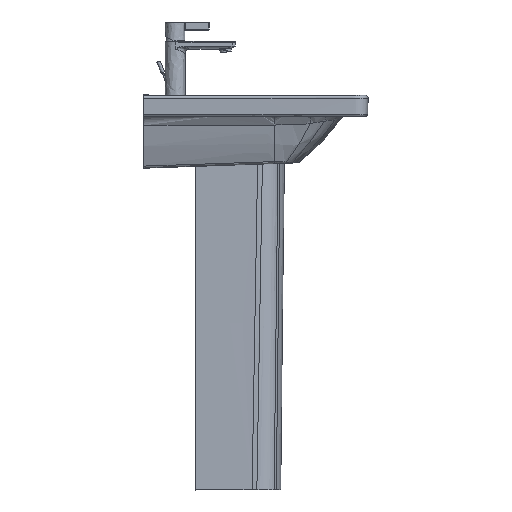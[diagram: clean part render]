
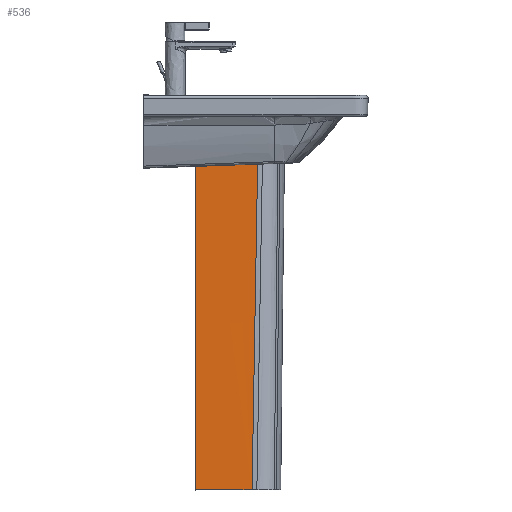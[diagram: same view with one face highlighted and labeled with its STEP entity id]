
A CAD part, left-side view. The second image highlights one B-rep face of the part: STEP entity #536.
In plain terms, the highlighted free-form (B-spline) face has degree [5, 5] with [9, 6] control points.
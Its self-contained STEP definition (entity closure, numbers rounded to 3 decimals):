
#536=ADVANCED_FACE('',(#1211),#9811,.T.);
#1211=FACE_OUTER_BOUND('',#1888,.T.);
#1888=EDGE_LOOP('',(#2681,#2682,#2683,#2684));
#2681=ORIENTED_EDGE('',*,*,#5873,.T.);
#2682=ORIENTED_EDGE('',*,*,#5875,.T.);
#2683=ORIENTED_EDGE('',*,*,#5874,.F.);
#2684=ORIENTED_EDGE('',*,*,#5859,.F.);
#5859=EDGE_CURVE('',#8840,#8826,#7493,.T.);
#5873=EDGE_CURVE('',#8840,#8847,#7507,.T.);
#5874=EDGE_CURVE('',#8826,#8827,#7508,.T.);
#5875=EDGE_CURVE('',#8847,#8827,#7509,.T.);
#7493=B_SPLINE_CURVE_WITH_KNOTS('',5,(#12902,#12903,#12904,#12905,#12906,
#12907,#12908,#12909,#12910,#12911,#12912,#12913,#12914,#12915,#12916,#12917,
#12918,#12919,#12920,#12921,#12922,#12923,#12924,#12925,#12926,#12927,#12928),
 .UNSPECIFIED.,.F.,.F.,(6,3,3,3,3,3,3,3,6),(-1014.293,-939.337,
-737.18,-534.646,-481.407,-329.77,
-152.247,-0.123,0.),.UNSPECIFIED.);
#7507=B_SPLINE_CURVE_WITH_KNOTS('',5,(#13125,#13126,#13127,#13128,#13129,
#13130),.UNSPECIFIED.,.F.,.F.,(6,6),(-44.424,76.24),
 .UNSPECIFIED.);
#7508=B_SPLINE_CURVE_WITH_KNOTS('',5,(#13131,#13132,#13133,#13134,#13135,
#13136),.UNSPECIFIED.,.F.,.F.,(6,6),(-132.778,0.),
 .UNSPECIFIED.);
#7509=B_SPLINE_CURVE_WITH_KNOTS('',5,(#13137,#13138,#13139,#13140,#13141,
#13142,#13143,#13144,#13145),.UNSPECIFIED.,.F.,.F.,(6,3,6),(-715.162,
-357.581,0.),.UNSPECIFIED.);
#8826=VERTEX_POINT('',#12626);
#8827=VERTEX_POINT('',#12627);
#8840=VERTEX_POINT('',#12640);
#8847=VERTEX_POINT('',#12647);
#9811=B_SPLINE_SURFACE_WITH_KNOTS('',5,5,((#10843,#10844,#10845,#10846,
#10847,#10848),(#10849,#10850,#10851,#10852,#10853,#10854),(#10855,#10856,
#10857,#10858,#10859,#10860),(#10861,#10862,#10863,#10864,#10865,#10866),
(#10867,#10868,#10869,#10870,#10871,#10872),(#10873,#10874,#10875,#10876,
#10877,#10878),(#10879,#10880,#10881,#10882,#10883,#10884),(#10885,#10886,
#10887,#10888,#10889,#10890),(#10891,#10892,#10893,#10894,#10895,#10896)),
 .UNSPECIFIED.,.F.,.F.,.F.,(6,3,6),(6,6),(0.,357.581,715.162),
(-86.45,76.24),.UNSPECIFIED.);
#10843=CARTESIAN_POINT('',(-83.021,159.04,214.274));
#10844=CARTESIAN_POINT('',(-82.521,126.488,214.274));
#10845=CARTESIAN_POINT('',(-82.021,93.935,214.274));
#10846=CARTESIAN_POINT('',(-81.521,61.383,214.274));
#10847=CARTESIAN_POINT('',(-81.021,28.83,214.274));
#10848=CARTESIAN_POINT('',(-80.521,-3.722,214.274));
#10849=CARTESIAN_POINT('',(-82.271,160.24,142.774));
#10850=CARTESIAN_POINT('',(-82.104,127.686,142.77));
#10851=CARTESIAN_POINT('',(-81.693,95.134,142.771));
#10852=CARTESIAN_POINT('',(-81.16,62.582,142.772));
#10853=CARTESIAN_POINT('',(-80.627,30.03,142.774));
#10854=CARTESIAN_POINT('',(-80.216,-2.522,142.774));
#10855=CARTESIAN_POINT('',(-81.521,161.44,71.274));
#10856=CARTESIAN_POINT('',(-81.923,128.89,71.265));
#10857=CARTESIAN_POINT('',(-81.718,96.343,71.262));
#10858=CARTESIAN_POINT('',(-81.163,63.799,71.262));
#10859=CARTESIAN_POINT('',(-80.517,31.253,71.264));
#10860=CARTESIAN_POINT('',(-80.036,-1.295,71.262));
#10861=CARTESIAN_POINT('',(-80.771,162.64,-0.226));
#10862=CARTESIAN_POINT('',(-80.576,130.095,-0.229));
#10863=CARTESIAN_POINT('',(-79.934,97.556,-0.225));
#10864=CARTESIAN_POINT('',(-79.121,65.021,-0.218));
#10865=CARTESIAN_POINT('',(-78.412,32.484,-0.212));
#10866=CARTESIAN_POINT('',(-78.085,-0.058,-0.21));
#10867=CARTESIAN_POINT('',(-79.271,165.04,-143.226));
#10868=CARTESIAN_POINT('',(-79.465,132.501,-143.233));
#10869=CARTESIAN_POINT('',(-78.877,99.973,-143.232));
#10870=CARTESIAN_POINT('',(-77.911,67.451,-143.225));
#10871=CARTESIAN_POINT('',(-76.972,34.928,-143.219));
#10872=CARTESIAN_POINT('',(-76.465,2.398,-143.218));
#10873=CARTESIAN_POINT('',(-77.771,167.44,-286.226));
#10874=CARTESIAN_POINT('',(-77.576,134.909,-286.229));
#10875=CARTESIAN_POINT('',(-76.781,102.391,-286.226));
#10876=CARTESIAN_POINT('',(-75.728,69.879,-286.219));
#10877=CARTESIAN_POINT('',(-74.755,37.366,-286.212));
#10878=CARTESIAN_POINT('',(-74.204,4.847,-286.21));
#10879=CARTESIAN_POINT('',(-77.021,168.64,-357.726));
#10880=CARTESIAN_POINT('',(-77.423,136.111,-357.735));
#10881=CARTESIAN_POINT('',(-77.027,103.593,-357.739));
#10882=CARTESIAN_POINT('',(-76.172,71.082,-357.738));
#10883=CARTESIAN_POINT('',(-75.195,38.571,-357.737));
#10884=CARTESIAN_POINT('',(-74.435,6.053,-357.738));
#10885=CARTESIAN_POINT('',(-76.271,169.84,-429.226));
#10886=CARTESIAN_POINT('',(-76.104,137.314,-429.23));
#10887=CARTESIAN_POINT('',(-75.541,104.796,-429.23));
#10888=CARTESIAN_POINT('',(-74.767,72.282,-429.228));
#10889=CARTESIAN_POINT('',(-73.97,39.769,-429.227));
#10890=CARTESIAN_POINT('',(-73.336,7.252,-429.226));
#10891=CARTESIAN_POINT('',(-75.521,171.04,-500.726));
#10892=CARTESIAN_POINT('',(-75.021,138.523,-500.726));
#10893=CARTESIAN_POINT('',(-74.522,106.005,-500.726));
#10894=CARTESIAN_POINT('',(-74.022,73.487,-500.726));
#10895=CARTESIAN_POINT('',(-73.523,40.97,-500.726));
#10896=CARTESIAN_POINT('',(-73.023,8.452,-500.726));
#12626=CARTESIAN_POINT('',(-82.56,129.04,214.274));
#12627=CARTESIAN_POINT('',(-80.521,-3.722,214.274));
#12640=CARTESIAN_POINT('',(-74.875,129.04,-500.726));
#12647=CARTESIAN_POINT('',(-73.023,8.452,-500.726));
#12902=CARTESIAN_POINT('',(-74.875,129.04,-500.726));
#12903=CARTESIAN_POINT('',(-75.019,129.04,-490.128));
#12904=CARTESIAN_POINT('',(-75.168,129.04,-479.531));
#12905=CARTESIAN_POINT('',(-75.32,129.04,-468.933));
#12906=CARTESIAN_POINT('',(-75.875,129.04,-429.753));
#12907=CARTESIAN_POINT('',(-76.388,129.04,-390.573));
#12908=CARTESIAN_POINT('',(-76.706,129.04,-361.904));
#12909=CARTESIAN_POINT('',(-77.284,129.04,-304.684));
#12910=CARTESIAN_POINT('',(-77.838,129.04,-247.463));
#12911=CARTESIAN_POINT('',(-78.131,129.04,-219.007));
#12912=CARTESIAN_POINT('',(-78.547,129.04,-182.844));
#12913=CARTESIAN_POINT('',(-78.952,129.04,-146.68));
#12914=CARTESIAN_POINT('',(-79.014,129.04,-141.039));
#12915=CARTESIAN_POINT('',(-79.326,129.04,-112.072));
#12916=CARTESIAN_POINT('',(-79.63,129.04,-83.104));
#12917=CARTESIAN_POINT('',(-79.868,129.04,-61.613));
#12918=CARTESIAN_POINT('',(-80.404,129.04,-15.073));
#12919=CARTESIAN_POINT('',(-80.951,129.04,31.466));
#12920=CARTESIAN_POINT('',(-81.237,129.04,56.478));
#12921=CARTESIAN_POINT('',(-81.717,129.04,103.088));
#12922=CARTESIAN_POINT('',(-82.099,129.04,149.698));
#12923=CARTESIAN_POINT('',(-82.254,129.04,171.167));
#12924=CARTESIAN_POINT('',(-82.398,129.04,192.695));
#12925=CARTESIAN_POINT('',(-82.559,129.04,214.222));
#12926=CARTESIAN_POINT('',(-82.559,129.04,214.225));
#12927=CARTESIAN_POINT('',(-82.56,129.04,214.249));
#12928=CARTESIAN_POINT('',(-82.56,129.04,214.274));
#13125=CARTESIAN_POINT('',(-74.875,129.04,-500.726));
#13126=CARTESIAN_POINT('',(-74.505,104.923,-500.726));
#13127=CARTESIAN_POINT('',(-74.135,80.805,-500.726));
#13128=CARTESIAN_POINT('',(-73.764,56.687,-500.726));
#13129=CARTESIAN_POINT('',(-73.394,32.57,-500.726));
#13130=CARTESIAN_POINT('',(-73.023,8.452,-500.726));
#13131=CARTESIAN_POINT('',(-82.56,129.04,214.274));
#13132=CARTESIAN_POINT('',(-82.152,102.488,214.274));
#13133=CARTESIAN_POINT('',(-81.744,75.935,214.274));
#13134=CARTESIAN_POINT('',(-81.336,49.383,214.274));
#13135=CARTESIAN_POINT('',(-80.928,22.83,214.274));
#13136=CARTESIAN_POINT('',(-80.521,-3.722,214.274));
#13137=CARTESIAN_POINT('',(-73.023,8.452,-500.726));
#13138=CARTESIAN_POINT('',(-73.336,7.252,-429.226));
#13139=CARTESIAN_POINT('',(-74.435,6.053,-357.738));
#13140=CARTESIAN_POINT('',(-74.204,4.847,-286.21));
#13141=CARTESIAN_POINT('',(-76.465,2.398,-143.218));
#13142=CARTESIAN_POINT('',(-78.085,-0.058,-0.21));
#13143=CARTESIAN_POINT('',(-80.036,-1.295,71.262));
#13144=CARTESIAN_POINT('',(-80.216,-2.522,142.774));
#13145=CARTESIAN_POINT('',(-80.521,-3.722,214.274));
